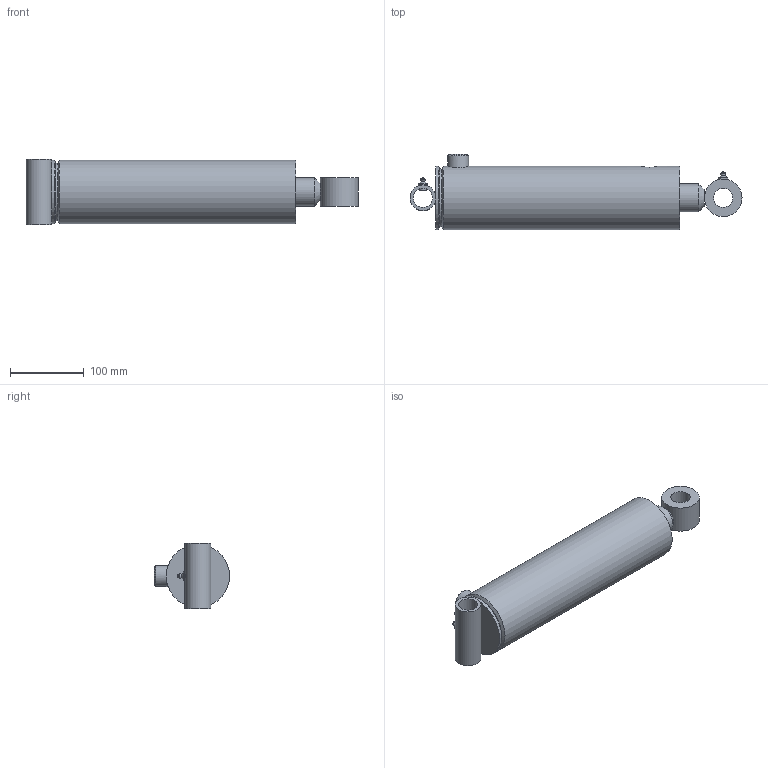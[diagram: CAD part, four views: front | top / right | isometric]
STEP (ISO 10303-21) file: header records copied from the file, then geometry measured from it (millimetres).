
FILE_DESCRIPTION((''),'2;1');
FILE_NAME('C:\Vault\Workspace\Vest\PMC-8308.stp','2010-11-03T07:30:27',('kneifld'),(''),'Autodesk Inventor 2010','Autodesk Inventor 2010','');
FILE_SCHEMA(('AUTOMOTIVE_DESIGN { 1 0 10303 214 1 1 1 1 }'));
Length unit declared in the file: inch
Products named in the file (22): PMC-8308; 061500046; 051500064; 161500007V; 210400412V; 200014403V; 081500401V; 020800279; 010800810; 210400528V; 071500021V; 220000210V; 250001222V; 240020059V; 240061334V; 240000334V; 230001300V; 240000022V; 240004006V; 240034334V; 200018003V; 270010002V
Assembly tree (25 placements, depth 3):
  PMC-8308
    061500046
      051500064
      161500007V
      210400412V
      200014403V
    081500401V
    020800279
      010800810
      210400528V
    071500021V
    220000210V
    250001222V
    240020059V
    240061334V
    240000334V  x2
    230001300V
    240000022V
    240004006V
    240034334V  x2
    200018003V  x2
    270010002V  x2
Bounding box: 449.25 x 101.6 x 88.9 mm (x, y, z)
Volume: 1214389.3 mm3; surface area: 350638 mm2
Topology: 23 solids, 23 shells, 243 faces, 497 edges, 302 vertices
Faces by surface type: plane 115, cylinder 62, cone 36, torus 18, bspline 10, sphere 2
Full cylindrical faces by diameter (mm): 1.524 x2, 2.794 x2, 5.486 x1, 8.839 x1, 9.08 x2, 12.7 x1, 23.813 x1, 25.349 x1, 25.476 x1, 25.908 x1, 26.162 x1, 27.94 x1, 28.575 x1, 34.925 x1, 38.1 x2, 38.176 x2, 39.052 x1, 41.91 x1, 46.025 x2, 46.673 x1, 47.625 x1, 49.2 x1, 50.8 x1, 55.55 x1, 59.69 x1, 66.802 x1, 67.31 x3, 67.564 x1, 68.072 x1, 71.425 x1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
Entity records: 6152 total; most frequent: CARTESIAN_POINT 1633, DIRECTION 905, ORIENTED_EDGE 588, AXIS2_PLACEMENT_3D 412, EDGE_LOOP 351, EDGE_CURVE 294, VERTEX_POINT 235, FACE_OUTER_BOUND 203
